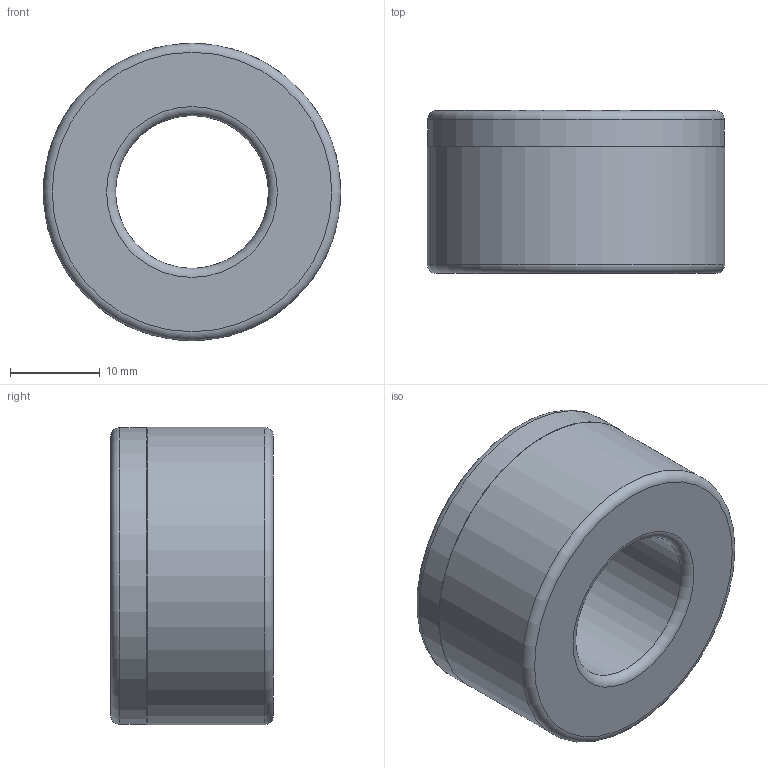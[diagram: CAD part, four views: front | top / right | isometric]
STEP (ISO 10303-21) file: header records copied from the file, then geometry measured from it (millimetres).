
FILE_DESCRIPTION(/* description */ (''),/* implementation_level */ '2;1');
FILE_NAME(/* name */ 'G:\KB-FTKon\CAD\Inventor\Kundenmodelle\Kerne\V315\V315_Shrinkwrap_1.stp',/* time_stamp */ '2020-01-13T10:46:57+01:00',/* author */ ('de881284'),/* organization */ (''),/* preprocessor_version */ 'ST-DEVELOPER v18',/* originating_system */ 'Autodesk Inventor 2020',/* authorisation */ '');
FILE_SCHEMA (('AUTOMOTIVE_DESIGN { 1 0 10303 214 3 1 1 }'));
Length unit declared in the file: millimetre
Products named in the file (1): V315_Shrinkwrap_1
Bounding box: 33.1 x 18.1 x 33.1 mm (x, y, z)
Volume: 11391.9 mm3; surface area: 4182.7 mm2
Topology: 1 solids, 1 shells, 18 faces, 40 edges, 28 vertices
Faces by surface type: plane 6, cylinder 6, torus 4, cone 2
Full cylindrical faces by diameter (mm): 17 x2, 18 x1, 32.1 x1, 33.1 x2
Entity records: 609 total; most frequent: DIRECTION 110, CARTESIAN_POINT 87, ORIENTED_EDGE 80, AXIS2_PLACEMENT_3D 51, EDGE_CURVE 40, CIRCLE 32, VERTEX_POINT 28, EDGE_LOOP 24
